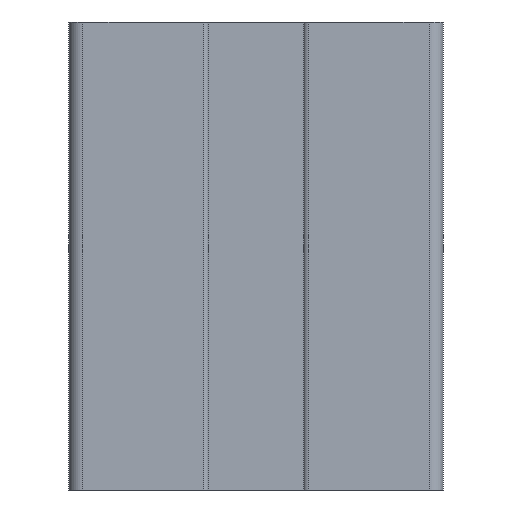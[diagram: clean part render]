
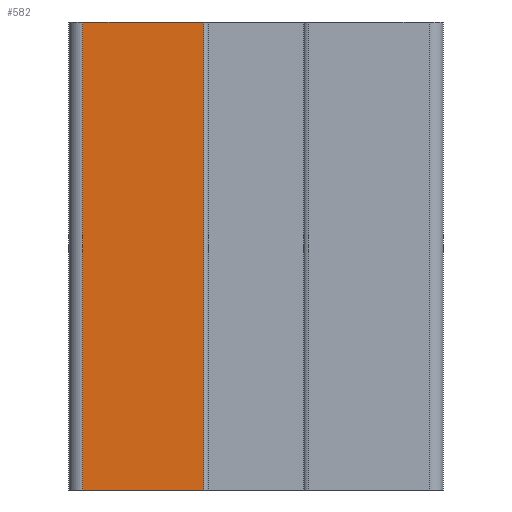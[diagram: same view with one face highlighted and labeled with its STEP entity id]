
A CAD part, front view. The second image highlights one B-rep face of the part: STEP entity #582.
In plain terms, the highlighted planar face has unit normal (0, -1, 0).
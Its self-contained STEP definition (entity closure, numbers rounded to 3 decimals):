
#582=ADVANCED_FACE('',(#1274),#1275,.F.);
#1274=FACE_OUTER_BOUND('',#2087,.T.);
#1275=PLANE('',#2088);
#2087=EDGE_LOOP('',(#3629,#3630,#3631,#3632));
#2088=AXIS2_PLACEMENT_3D('',#3633,#3634,#3635);
#3629=ORIENTED_EDGE('',*,*,#5735,.T.);
#3630=ORIENTED_EDGE('',*,*,#5736,.F.);
#3631=ORIENTED_EDGE('',*,*,#5737,.F.);
#3632=ORIENTED_EDGE('',*,*,#5393,.T.);
#3633=CARTESIAN_POINT('',(1.5,0.,50.0));
#3634=DIRECTION('',(0.0,1.0,0.0));
#3635=DIRECTION('',(0.0,0.0,1.0));
#5393=EDGE_CURVE('',#6677,#6675,#6678,.T.);
#5735=EDGE_CURVE('',#6675,#7211,#7212,.T.);
#5736=EDGE_CURVE('',#7213,#7211,#7214,.T.);
#5737=EDGE_CURVE('',#6677,#7213,#7215,.T.);
#6675=VERTEX_POINT('',#8447);
#6677=VERTEX_POINT('',#8449);
#6678=LINE('',#8450,#8451);
#7211=VERTEX_POINT('',#9154);
#7212=LINE('',#9155,#9156);
#7213=VERTEX_POINT('',#9157);
#7214=LINE('',#9158,#9159);
#7215=LINE('',#9160,#9161);
#8447=CARTESIAN_POINT('',(1.5,0.,0.0));
#8449=CARTESIAN_POINT('',(1.5,0.,50.0));
#8450=CARTESIAN_POINT('',(1.5,0.,50.0));
#8451=VECTOR('',#10153,1.0);
#9154=CARTESIAN_POINT('',(14.4,0.,0.0));
#9155=CARTESIAN_POINT('',(1.5,0.,0.0));
#9156=VECTOR('',#10591,1.0);
#9157=CARTESIAN_POINT('',(14.4,0.,50.0));
#9158=CARTESIAN_POINT('',(14.4,0.,50.0));
#9159=VECTOR('',#10592,1.0);
#9160=CARTESIAN_POINT('',(1.5,0.,50.0));
#9161=VECTOR('',#10593,1.0);
#10153=DIRECTION('',(0.0,0.0,-1.0));
#10591=DIRECTION('',(1.0,0.0,0.0));
#10592=DIRECTION('',(0.0,0.0,-1.0));
#10593=DIRECTION('',(1.0,0.0,0.0));
